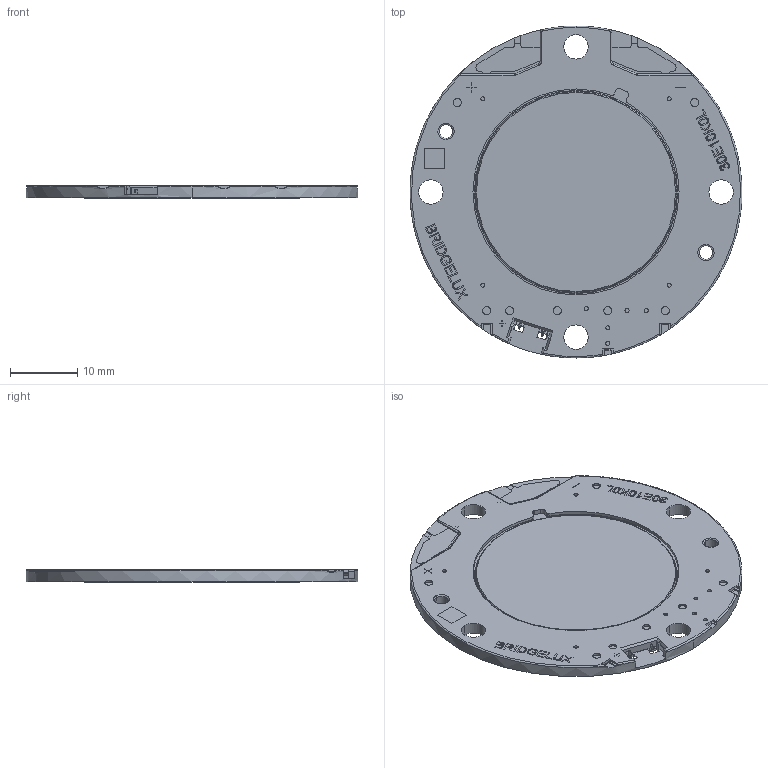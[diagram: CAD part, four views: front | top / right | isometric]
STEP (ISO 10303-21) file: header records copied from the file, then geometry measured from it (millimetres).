
FILE_DESCRIPTION (( 'STEP AP214' ), '1' );
FILE_NAME ('Vero29 assy revA.STEP', '2013-07-02T20:33:09', ( '' ), ( '' ), 'SwSTEP 2.0', 'SolidWorks 2013', '' );
FILE_SCHEMA (( 'AUTOMOTIVE_DESIGN' ));
Length unit declared in the file: millimetre
Products named in the file (10): Vero29 component; Vero29 component LF4; Vero29 component LF3; Vero29 component LF2; Vero29 component LF1; Vero29 component body; Ph_Vero29; Base_Vero29_Round_Center; Vero29 assy revA; Vero29 component assy
Assembly tree (9 placements, depth 4):
  Vero29 assy revA
    Base_Vero29_Round_Center
    Ph_Vero29
    Vero29 component assy
      Vero29 component
        Vero29 component body
        Vero29 component LF1
        Vero29 component LF2
        Vero29 component LF3
        Vero29 component LF4
Bounding box: 49.2 x 49.2 x 1.9 mm (x, y, z)
Volume: 2982.1 mm3; surface area: 6832.1 mm2
Topology: 11 solids, 15 shells, 966 faces, 2530 edges, 1647 vertices
Faces by surface type: plane 514, cylinder 281, bspline 140, cone 27, torus 4
Entity records: 42372 total; most frequent: CARTESIAN_POINT 12373, ORIENTED_EDGE 5042, DIRECTION 4524, EDGE_CURVE 2521, VERTEX_POINT 1647, LINE 1602, VECTOR 1602, AXIS2_PLACEMENT_3D 1461
